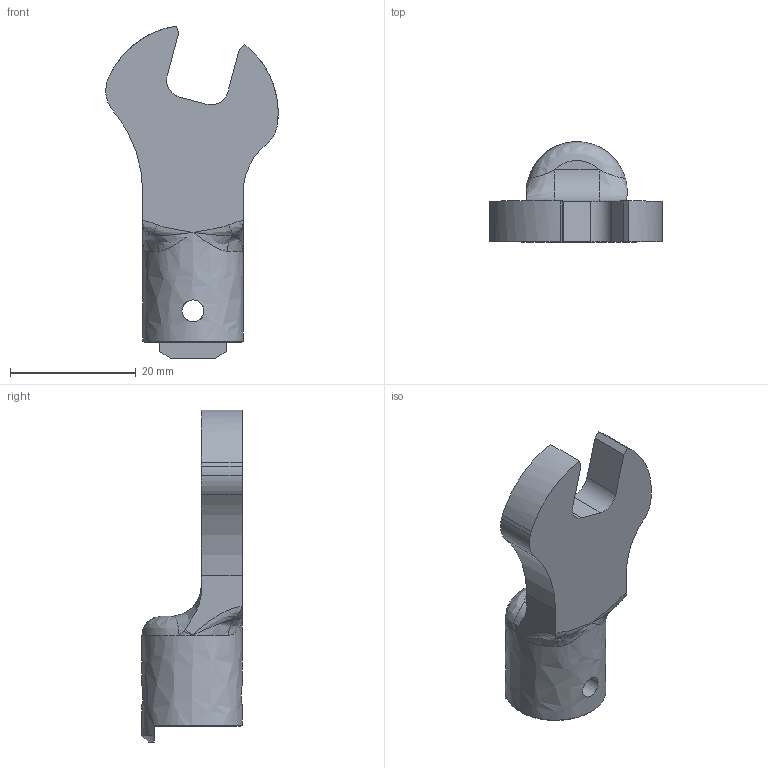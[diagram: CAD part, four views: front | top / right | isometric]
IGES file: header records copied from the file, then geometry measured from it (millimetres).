
Global section: file name: SH10DX10; native system: Autodesk Inventor 2016; preprocessor: unknown; author: Q600; date: 20151029.185706; units: millimetre
Bounding box: 27.44 x 16 x 52.85 mm (x, y, z)
Volume: 6065.3 mm3; surface area: 3591 mm2
Topology: 1 solids, 1 shells, 48 faces, 143 edges, 91 vertices
Faces by surface type: bspline 48
